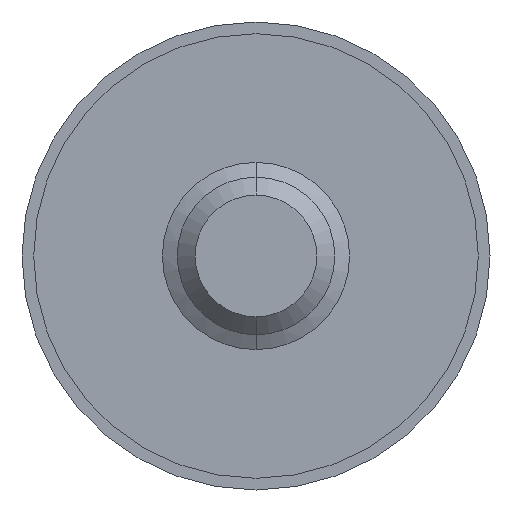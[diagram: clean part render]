
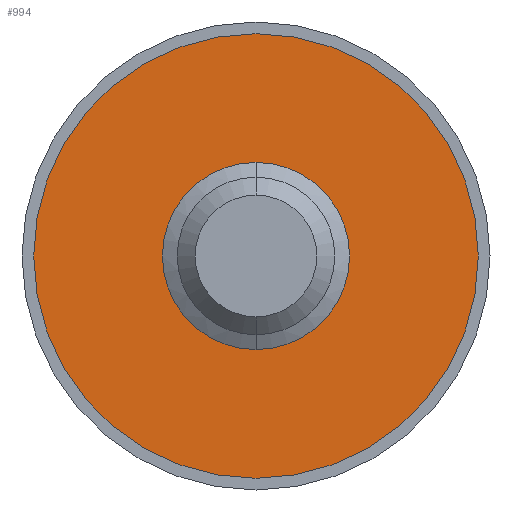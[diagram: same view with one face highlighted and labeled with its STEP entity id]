
A CAD part, front view. The second image highlights one B-rep face of the part: STEP entity #994.
In plain terms, the highlighted planar face has unit normal (0, -1, 0).
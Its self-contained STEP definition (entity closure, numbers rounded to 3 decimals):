
#60 = CARTESIAN_POINT ( 'NONE',  ( 0., -0.5, 0. ) ) ;
#83 = DIRECTION ( 'NONE',  ( 0., 1., 0. ) ) ;
#187 = FACE_OUTER_BOUND ( 'NONE', #3407, .T. ) ;
#239 = AXIS2_PLACEMENT_3D ( 'NONE', #1792, #2037, #598 ) ;
#263 = DIRECTION ( 'NONE',  ( 0., 0., -1. ) ) ;
#266 = CIRCLE ( 'NONE', #2039, 4.75 ) ;
#408 = VERTEX_POINT ( 'NONE', #2141 ) ;
#507 = CIRCLE ( 'NONE', #2591, 2. ) ;
#519 = ORIENTED_EDGE ( 'NONE', *, *, #1617, .F. ) ;
#577 = CARTESIAN_POINT ( 'NONE',  ( 0., -0.5, -4.75 ) ) ;
#598 = DIRECTION ( 'NONE',  ( 0., 0., 1. ) ) ;
#657 = CARTESIAN_POINT ( 'NONE',  ( 0., -0.5, 0. ) ) ;
#880 = EDGE_CURVE ( 'NONE', #1663, #408, #507, .T. ) ;
#927 = DIRECTION ( 'NONE',  ( 0., 1., 0. ) ) ;
#994 = ADVANCED_FACE ( 'NONE', ( #3501, #187 ), #1762, .F. ) ;
#1113 = CARTESIAN_POINT ( 'NONE',  ( 0., -0.5, 0. ) ) ;
#1384 = ORIENTED_EDGE ( 'NONE', *, *, #3130, .F. ) ;
#1429 = CARTESIAN_POINT ( 'NONE',  ( 0., -0.5, 0. ) ) ;
#1510 = CARTESIAN_POINT ( 'NONE',  ( 0., -0.5, -2. ) ) ;
#1535 = VERTEX_POINT ( 'NONE', #577 ) ;
#1617 = EDGE_CURVE ( 'NONE', #3072, #1535, #266, .T. ) ;
#1663 = VERTEX_POINT ( 'NONE', #1510 ) ;
#1745 = DIRECTION ( 'NONE',  ( 0., -1., 0. ) ) ;
#1762 = PLANE ( 'NONE',  #239 ) ;
#1792 = CARTESIAN_POINT ( 'NONE',  ( 0., -0.5, 0. ) ) ;
#1848 = ORIENTED_EDGE ( 'NONE', *, *, #880, .F. ) ;
#1875 = AXIS2_PLACEMENT_3D ( 'NONE', #657, #83, #2128 ) ;
#2037 = DIRECTION ( 'NONE',  ( 0., 1., 0. ) ) ;
#2039 = AXIS2_PLACEMENT_3D ( 'NONE', #60, #927, #3223 ) ;
#2128 = DIRECTION ( 'NONE',  ( 0., 0., 1. ) ) ;
#2141 = CARTESIAN_POINT ( 'NONE',  ( 0., -0.5, 2. ) ) ;
#2334 = CIRCLE ( 'NONE', #1875, 4.75 ) ;
#2591 = AXIS2_PLACEMENT_3D ( 'NONE', #1429, #3413, #2837 ) ;
#2615 = EDGE_LOOP ( 'NONE', ( #1384, #1848 ) ) ;
#2837 = DIRECTION ( 'NONE',  ( 0., 0., -1. ) ) ;
#2880 = ORIENTED_EDGE ( 'NONE', *, *, #3384, .F. ) ;
#3027 = CARTESIAN_POINT ( 'NONE',  ( 0., -0.5, 4.75 ) ) ;
#3071 = AXIS2_PLACEMENT_3D ( 'NONE', #1113, #1745, #263 ) ;
#3072 = VERTEX_POINT ( 'NONE', #3027 ) ;
#3130 = EDGE_CURVE ( 'NONE', #408, #1663, #3395, .T. ) ;
#3223 = DIRECTION ( 'NONE',  ( 0., 0., 1. ) ) ;
#3384 = EDGE_CURVE ( 'NONE', #1535, #3072, #2334, .T. ) ;
#3395 = CIRCLE ( 'NONE', #3071, 2. ) ;
#3407 = EDGE_LOOP ( 'NONE', ( #519, #2880 ) ) ;
#3413 = DIRECTION ( 'NONE',  ( 0., -1., 0. ) ) ;
#3501 = FACE_BOUND ( 'NONE', #2615, .T. ) ;
